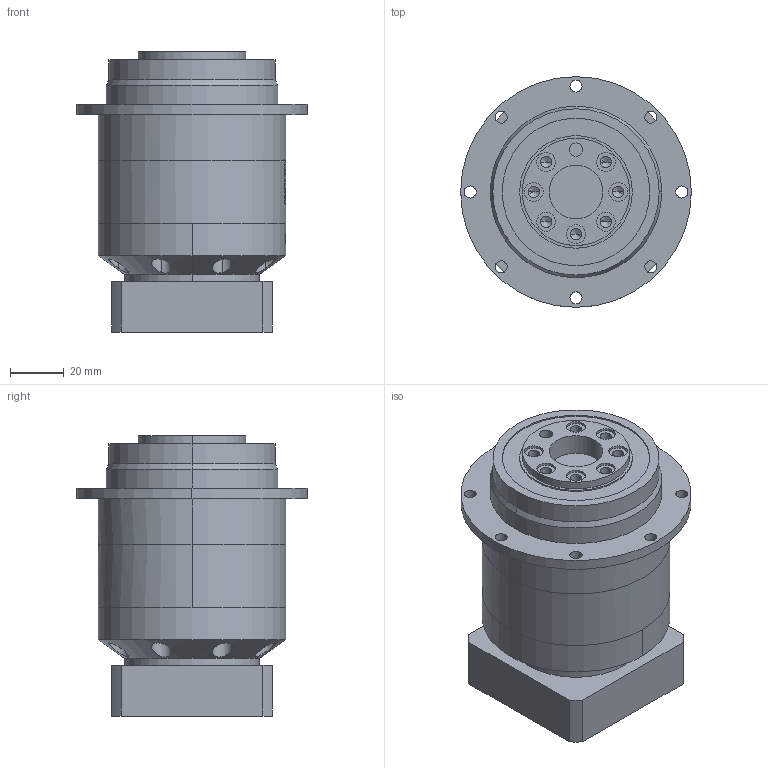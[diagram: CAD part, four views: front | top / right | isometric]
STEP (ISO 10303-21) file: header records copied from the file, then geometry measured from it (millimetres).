
FILE_DESCRIPTION (( 'STEP AP203' ), '1' );
FILE_NAME ('PLX60-L2-8-38.1-66.7.STEP', '2022-07-05T08:14:32', ( 'Windows User' ), ( 'P R C' ), 'SwSTEP 2.0', 'SolidWorks 2016', '' );
FILE_SCHEMA (( 'CONFIG_CONTROL_DESIGN' ));
Length unit declared in the file: millimetre
Products named in the file (6): PLX60-L2-8-38.1-66.7; PG64 内齿圈_一级加二级内齿圈; PG64 狟屳啣-8; 囀鞠褒蹟佪-M4℅16; PG64 窣諉啣-38.1-M4-66.7; 粣創-61805 25x37x7
Assembly tree (5 placements, depth 2):
  PLX60-L2-8-38.1-66.7
    PG64 内齿圈_一级加二级内齿圈
    PG64 狟屳啣-8
    囀鞠褒蹟佪-M4℅16
    PG64 窣諉啣-38.1-M4-66.7
    粣創-61805 25x37x7
Bounding box: 86 x 86 x 104.5 mm (x, y, z)
Volume: 340978.5 mm3; surface area: 79502.2 mm2
Topology: 8 solids, 8 shells, 1271 faces, 3507 edges, 2310 vertices
Faces by surface type: plane 596, bspline 389, cylinder 258, cone 28
Entity records: 56052 total; most frequent: CARTESIAN_POINT 25370, ORIENTED_EDGE 6970, DIRECTION 5162, EDGE_CURVE 3485, VERTEX_POINT 2310, AXIS2_PLACEMENT_3D 1765, VECTOR 1632, LINE 1632
